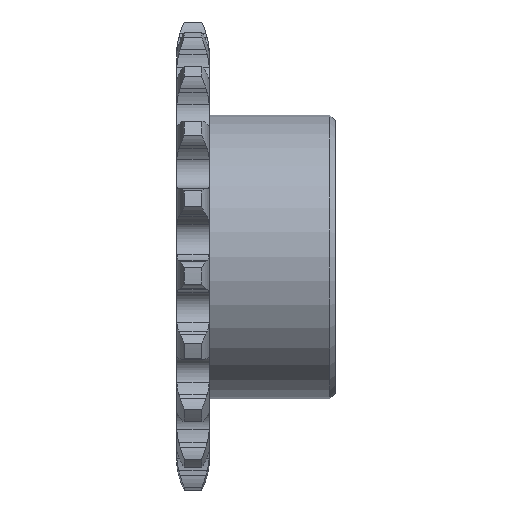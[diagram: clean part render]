
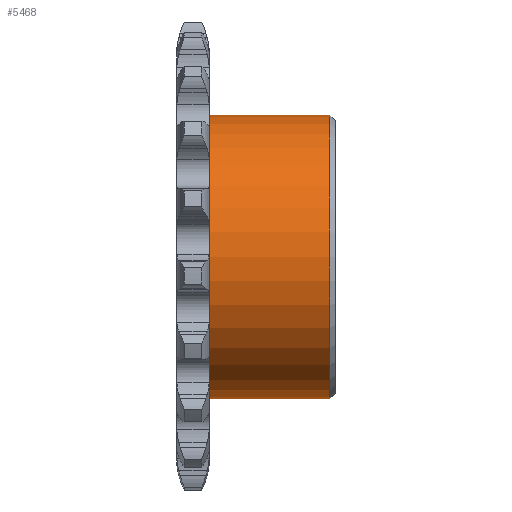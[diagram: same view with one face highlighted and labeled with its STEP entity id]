
A CAD part, top view. The second image highlights one B-rep face of the part: STEP entity #5468.
In plain terms, the highlighted cylindrical face has radius 12.5 mm (diameter 25 mm), a full revolution.
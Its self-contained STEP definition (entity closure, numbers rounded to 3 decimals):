
#521=CYLINDRICAL_SURFACE('',#5980,12.5);
#857=LINE('',#10244,#1195);
#1195=VECTOR('',#7295,12.5);
#1482=FACE_OUTER_BOUND('',#1777,.T.);
#1777=EDGE_LOOP('',(#5059,#5060,#5061,#5062));
#1947=CIRCLE('',#5887,12.5);
#1985=CIRCLE('',#5981,12.5);
#2548=VERTEX_POINT('',#10147);
#2549=VERTEX_POINT('',#10242);
#3352=EDGE_CURVE('',#2548,#2548,#1947,.T.);
#3390=EDGE_CURVE('',#2549,#2549,#1985,.T.);
#3391=EDGE_CURVE('',#2549,#2548,#857,.T.);
#5059=ORIENTED_EDGE('',*,*,#3390,.F.);
#5060=ORIENTED_EDGE('',*,*,#3391,.T.);
#5061=ORIENTED_EDGE('',*,*,#3352,.T.);
#5062=ORIENTED_EDGE('',*,*,#3391,.F.);
#5468=ADVANCED_FACE('',(#1482),#521,.T.);
#5887=AXIS2_PLACEMENT_3D('',#10148,#7105,#7106);
#5980=AXIS2_PLACEMENT_3D('',#10241,#7291,#7292);
#5981=AXIS2_PLACEMENT_3D('',#10243,#7293,#7294);
#7105=DIRECTION('center_axis',(1.,0.,0.));
#7106=DIRECTION('ref_axis',(0.,0.,-1.));
#7291=DIRECTION('center_axis',(1.,0.,0.));
#7292=DIRECTION('ref_axis',(0.,1.,0.));
#7293=DIRECTION('center_axis',(1.,0.,0.));
#7294=DIRECTION('ref_axis',(0.,0.,-1.));
#7295=DIRECTION('',(-1.,0.,0.));
#10147=CARTESIAN_POINT('',(2.9,-12.5,0.));
#10148=CARTESIAN_POINT('Origin',(2.9,0.,0.));
#10241=CARTESIAN_POINT('Origin',(8.2,0.,0.));
#10242=CARTESIAN_POINT('',(13.5,-12.5,0.));
#10243=CARTESIAN_POINT('Origin',(13.5,0.,0.));
#10244=CARTESIAN_POINT('',(8.2,-12.5,0.));
